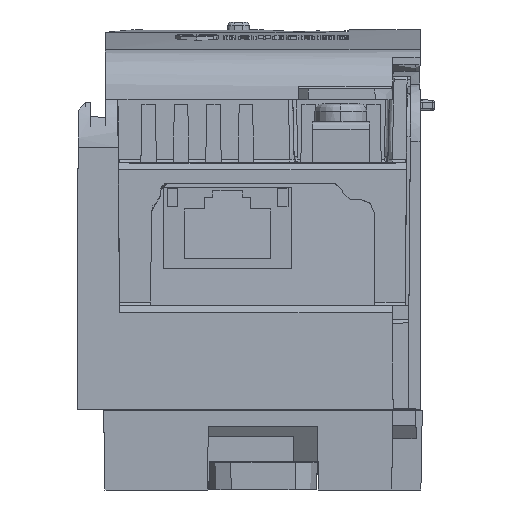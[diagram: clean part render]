
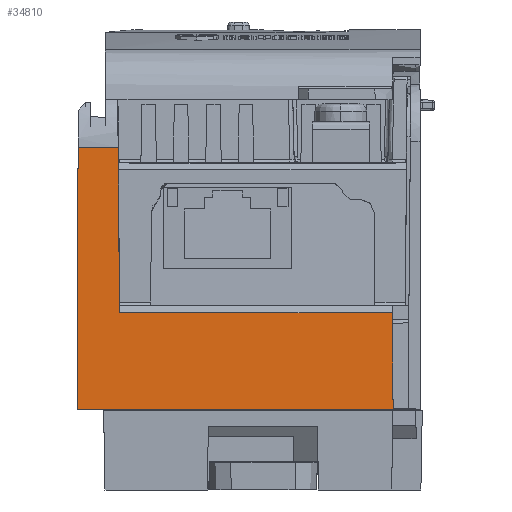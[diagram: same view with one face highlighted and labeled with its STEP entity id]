
A CAD part, front view. The second image highlights one B-rep face of the part: STEP entity #34810.
In plain terms, the highlighted planar face has unit normal (0, -1, 0.009).
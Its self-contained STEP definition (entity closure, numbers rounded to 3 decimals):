
#492 = CARTESIAN_POINT ( 'NONE',  ( -81.721, -57.23, 37.082 ) ) ;
#790 = CARTESIAN_POINT ( 'NONE',  ( -43.884, -57.219, 38.405 ) ) ;
#1242 = EDGE_CURVE ( 'NONE', #55852, #38974, #43389, .T. ) ;
#1882 = EDGE_CURVE ( 'NONE', #31799, #72162, #15312, .T. ) ;
#2118 = PLANE ( 'NONE',  #7419 ) ;
#4466 = VECTOR ( 'NONE', #23924, 1000. ) ;
#4744 = CARTESIAN_POINT ( 'NONE',  ( -81.999, -57.031, 59.965 ) ) ;
#7419 = AXIS2_PLACEMENT_3D ( 'NONE', #58661, #35199, #8712 ) ;
#8712 = DIRECTION ( 'NONE',  ( 0., -0.009, -1. ) ) ;
#9387 = EDGE_CURVE ( 'NONE', #51910, #31799, #19947, .T. ) ;
#10301 = EDGE_CURVE ( 'NONE', #57240, #55852, #16405, .T. ) ;
#11228 = DIRECTION ( 'NONE',  ( -1., 0., 0. ) ) ;
#11565 = VECTOR ( 'NONE', #20091, 1000. ) ;
#11951 = EDGE_CURVE ( 'NONE', #13621, #18335, #43411, .T. ) ;
#13621 = VERTEX_POINT ( 'NONE', #43745 ) ;
#14207 = CARTESIAN_POINT ( 'NONE',  ( -83.227, -57.239, 36.073 ) ) ;
#14428 = CARTESIAN_POINT ( 'NONE',  ( -43.756, -57.347, 23.673 ) ) ;
#15312 = LINE ( 'NONE', #14207, #11565 ) ;
#15498 = CARTESIAN_POINT ( 'NONE',  ( -81.713, -57.238, 36.177 ) ) ;
#15550 = CARTESIAN_POINT ( 'NONE',  ( -42.33, -57.347, 23.673 ) ) ;
#16405 = LINE ( 'NONE', #66671, #45763 ) ;
#18335 = VERTEX_POINT ( 'NONE', #60955 ) ;
#19849 = EDGE_CURVE ( 'NONE', #35044, #13621, #68540, .T. ) ;
#19947 = LINE ( 'NONE', #15550, #37554 ) ;
#20091 = DIRECTION ( 'NONE',  ( 0.009, 0.009, 1. ) ) ;
#23389 = DIRECTION ( 'NONE',  ( 0.002, 0.009, 1. ) ) ;
#23924 = DIRECTION ( 'NONE',  ( -0.009, 0.009, 1. ) ) ;
#26030 = VECTOR ( 'NONE', #72613, 1000. ) ;
#26530 = ORIENTED_EDGE ( 'NONE', *, *, #1242, .T. ) ;
#27153 = CARTESIAN_POINT ( 'NONE',  ( -83.826, -57.031, 59.968 ) ) ;
#27585 = ORIENTED_EDGE ( 'NONE', *, *, #29751, .T. ) ;
#29083 = EDGE_LOOP ( 'NONE', ( #26530, #59399, #56366, #61418, #32783, #67008, #48502, #27585, #46328 ) ) ;
#29683 = FACE_OUTER_BOUND ( 'NONE', #29083, .T. ) ;
#29751 = EDGE_CURVE ( 'NONE', #51910, #57240, #34585, .T. ) ;
#31799 = VERTEX_POINT ( 'NONE', #68088 ) ;
#32637 = CARTESIAN_POINT ( 'NONE',  ( -81.947, -57.031, 59.965 ) ) ;
#32783 = ORIENTED_EDGE ( 'NONE', *, *, #62967, .F. ) ;
#34585 = LINE ( 'NONE', #790, #4466 ) ;
#34810 = ADVANCED_FACE ( 'NONE', ( #29683 ), #2118, .T. ) ;
#35044 = VERTEX_POINT ( 'NONE', #44331 ) ;
#35199 = DIRECTION ( 'NONE',  ( 0., -1., 0.009 ) ) ;
#36708 = CARTESIAN_POINT ( 'NONE',  ( -85.653, -57.03, 59.971 ) ) ;
#37554 = VECTOR ( 'NONE', #71343, 1000. ) ;
#37890 = DIRECTION ( 'NONE',  ( -0.009, 0.009, 1. ) ) ;
#38974 = VERTEX_POINT ( 'NONE', #50141 ) ;
#39384 = VECTOR ( 'NONE', #49996, 1000. ) ;
#41287 = VECTOR ( 'NONE', #23389, 1000. ) ;
#43389 = LINE ( 'NONE', #15498, #68944 ) ;
#43411 = LINE ( 'NONE', #71316, #39384 ) ;
#43745 = CARTESIAN_POINT ( 'NONE',  ( -87.496, -57.113, 50.565 ) ) ;
#44331 = CARTESIAN_POINT ( 'NONE',  ( -87.546, -57.347, 23.673 ) ) ;
#45763 = VECTOR ( 'NONE', #11228, 1000. ) ;
#46328 = ORIENTED_EDGE ( 'NONE', *, *, #10301, .T. ) ;
#48074 = CARTESIAN_POINT ( 'NONE',  ( -81.973, -57.031, 59.965 ) ) ;
#48502 = ORIENTED_EDGE ( 'NONE', *, *, #9387, .F. ) ;
#49226 = CARTESIAN_POINT ( 'NONE',  ( -87.479, -57.031, 59.903 ) ) ;
#49760 = EDGE_CURVE ( 'NONE', #38974, #18335, #69661, .T. ) ;
#49996 = DIRECTION ( 'NONE',  ( 0.002, 0.009, 1. ) ) ;
#50141 = CARTESIAN_POINT ( 'NONE',  ( -81.92, -57.031, 59.965 ) ) ;
#51910 = VERTEX_POINT ( 'NONE', #14428 ) ;
#55397 = CARTESIAN_POINT ( 'NONE',  ( -83.335, -57.347, 23.673 ) ) ;
#55852 = VERTEX_POINT ( 'NONE', #492 ) ;
#56366 = ORIENTED_EDGE ( 'NONE', *, *, #11951, .F. ) ;
#57240 = VERTEX_POINT ( 'NONE', #66031 ) ;
#58661 = CARTESIAN_POINT ( 'NONE',  ( -81.959, -57.222, 38.073 ) ) ;
#59399 = ORIENTED_EDGE ( 'NONE', *, *, #49760, .T. ) ;
#60472 = LINE ( 'NONE', #61925, #26030 ) ;
#60955 = CARTESIAN_POINT ( 'NONE',  ( -87.48, -57.03, 59.974 ) ) ;
#61418 = ORIENTED_EDGE ( 'NONE', *, *, #19849, .F. ) ;
#61925 = CARTESIAN_POINT ( 'NONE',  ( -87.547, -57.347, 23.673 ) ) ;
#62967 = EDGE_CURVE ( 'NONE', #72162, #35044, #60472, .T. ) ;
#64949 = CARTESIAN_POINT ( 'NONE',  ( -81.92, -57.031, 59.965 ) ) ;
#66031 = CARTESIAN_POINT ( 'NONE',  ( -43.873, -57.23, 37.082 ) ) ;
#66047 = CARTESIAN_POINT ( 'NONE',  ( -87.48, -57.03, 59.974 ) ) ;
#66671 = CARTESIAN_POINT ( 'NONE',  ( -81.73, -57.23, 37.082 ) ) ;
#67008 = ORIENTED_EDGE ( 'NONE', *, *, #1882, .F. ) ;
#68088 = CARTESIAN_POINT ( 'NONE',  ( -83.335, -57.347, 23.673 ) ) ;
#68540 = LINE ( 'NONE', #49226, #41287 ) ;
#68944 = VECTOR ( 'NONE', #37890, 1000. ) ;
#69661 = B_SPLINE_CURVE_WITH_KNOTS ( 'NONE', 3,
 ( #64949, #32637, #48074, #4744, #27153, #36708, #66047 ),
 .UNSPECIFIED., .F., .F.,
 ( 4, 3, 4 ),
 ( 0., 0., 0.006 ),
 .UNSPECIFIED. ) ;
#71316 = CARTESIAN_POINT ( 'NONE',  ( -87.543, -57.347, 23.699 ) ) ;
#71343 = DIRECTION ( 'NONE',  ( -1., 0., 0. ) ) ;
#72162 = VERTEX_POINT ( 'NONE', #55397 ) ;
#72613 = DIRECTION ( 'NONE',  ( -1., 0., 0. ) ) ;
